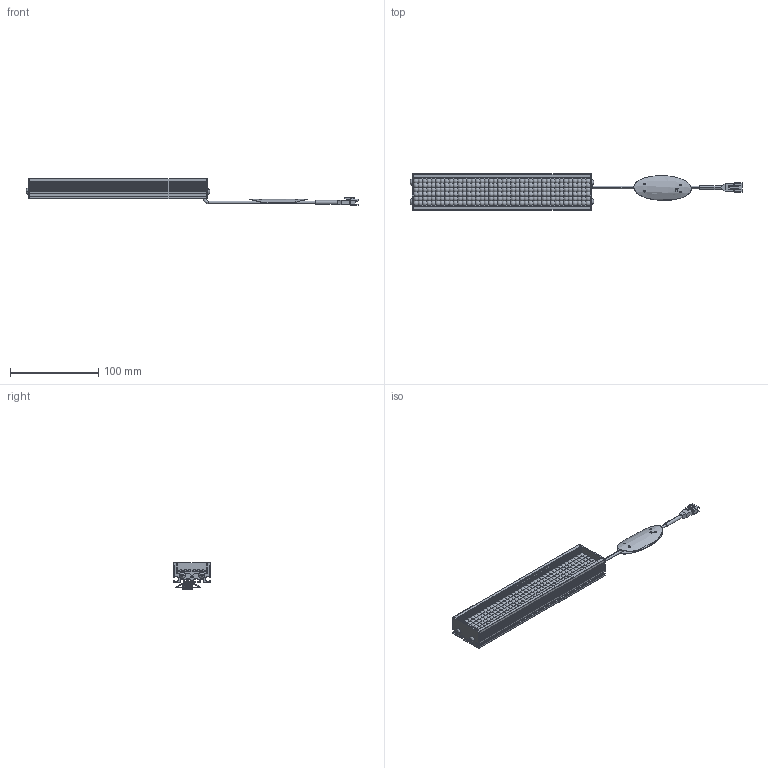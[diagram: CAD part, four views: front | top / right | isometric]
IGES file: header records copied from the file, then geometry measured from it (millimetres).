
Start section: 3D InterOp IGES (v. 2019 1.0.2), Spatial Corp. Copyright (c) 1999-2017.
Global section: file name: VBA-20030_DRAWING_3D.iges; native system: Spatial Corp.; preprocessor: 3D InterOp ACIS/IGES; author: Noname; organization: Noname; date: 20230914.101045; units: millimetre
Bounding box: 376 x 41 x 30.5 mm (x, y, z)
Surface area: 89328.6 mm2 (no closed solid volume)
Topology: 0 solids, 0 shells, 1680 faces, 9802 edges, 9802 vertices
Faces by surface type: revolution 854, extrusion 820, bspline 6
